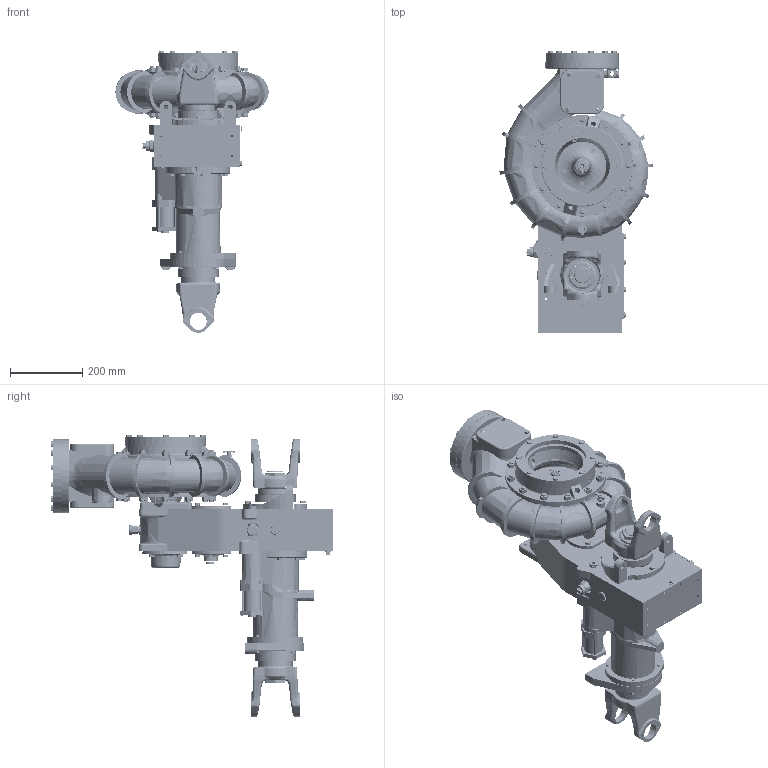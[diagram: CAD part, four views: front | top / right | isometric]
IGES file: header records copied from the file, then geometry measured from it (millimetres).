
Start section:  PTC IGES file: dld0624.igs
Global section: file name: dld0624.igs; native system: Creo Parametric by Parametric Technology Corporation; preprocessor: 2013150; author: SMS; organization: Unknown; date: 20140324.161247; units: inch
Bounding box: 422.68 x 779.21 x 777.25 mm (x, y, z)
Surface area: 2269244.5 mm2 (no closed solid volume)
Topology: 0 solids, 0 shells, 2992 faces, 15401 edges, 15391 vertices
Faces by surface type: bspline 1551, revolution 1439, extrusion 2
